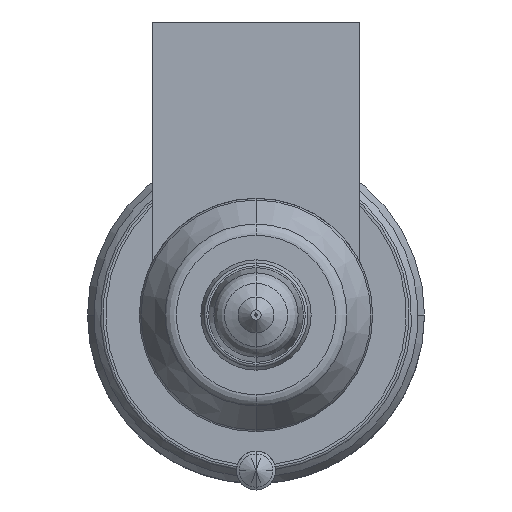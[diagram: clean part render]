
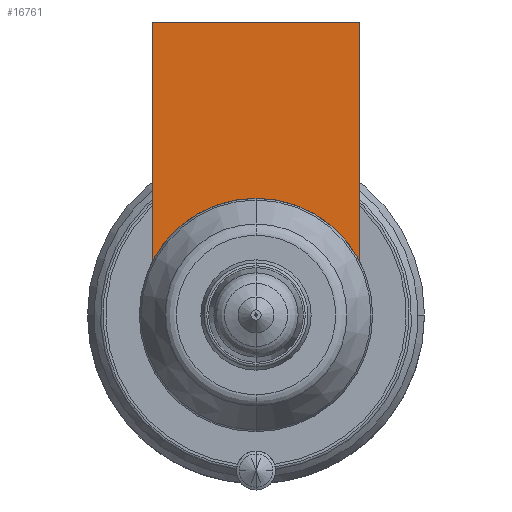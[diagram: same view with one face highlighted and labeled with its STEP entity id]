
A CAD part, front view. The second image highlights one B-rep face of the part: STEP entity #16761.
In plain terms, the highlighted planar face has unit normal (0, -1, 0).
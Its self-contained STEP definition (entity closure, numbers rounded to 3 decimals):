
#15114=DIRECTION('',(0.,0.,-1.));
#15115=VECTOR('',#15114,18.481);
#15116=CARTESIAN_POINT('',(-8.,-54.,22.604));
#15117=LINE('',#15116,#15115);
#15748=CARTESIAN_POINT('',(0.,-54.,0.));
#15749=DIRECTION('',(0.,-1.,0.));
#15750=DIRECTION('',(0.,0.,1.));
#15751=AXIS2_PLACEMENT_3D('',#15748,#15749,#15750);
#15756=DIRECTION('',(1.,0.,0.));
#15757=VECTOR('',#15756,16.);
#15758=CARTESIAN_POINT('',(-8.,-54.,22.604));
#15759=LINE('',#15758,#15757);
#15763=CARTESIAN_POINT('',(0.,-54.,0.));
#15764=DIRECTION('',(0.,-1.,0.));
#15765=DIRECTION('',(0.889,0.,0.458));
#15766=AXIS2_PLACEMENT_3D('',#15763,#15764,#15765);
#15849=DIRECTION('',(0.,0.,-1.));
#15850=VECTOR('',#15849,18.481);
#15851=CARTESIAN_POINT('',(8.,-54.,22.604));
#15852=LINE('',#15851,#15850);
#15958=CARTESIAN_POINT('',(-8.,-54.,22.604));
#15959=VERTEX_POINT('',#15958);
#15964=CARTESIAN_POINT('',(8.,-54.,22.604));
#15965=VERTEX_POINT('',#15964);
#15967=CARTESIAN_POINT('',(-8.,-54.,4.123));
#15969=VERTEX_POINT('',#15967);
#15971=CARTESIAN_POINT('',(8.,-54.,4.123));
#15973=VERTEX_POINT('',#15971);
#15974=CARTESIAN_POINT('',(0.,-54.,9.));
#15975=VERTEX_POINT('',#15974);
#16747=CARTESIAN_POINT('',(-8.,-54.,22.604));
#16748=DIRECTION('',(0.,-1.,0.));
#16749=DIRECTION('',(0.,0.,-1.));
#16750=AXIS2_PLACEMENT_3D('',#16747,#16748,#16749);
#16751=PLANE('',#16750);
#16752=ORIENTED_EDGE('',*,*,#16015,.T.);
#16753=ORIENTED_EDGE('',*,*,#15998,.F.);
#16755=ORIENTED_EDGE('',*,*,#16754,.T.);
#16757=ORIENTED_EDGE('',*,*,#16756,.T.);
#16758=ORIENTED_EDGE('',*,*,#16063,.T.);
#16759=EDGE_LOOP('',(#16752,#16753,#16755,#16757,#16758));
#16760=FACE_OUTER_BOUND('',#16759,.F.);
#16761=ADVANCED_FACE('',(#16760),#16751,.T.);
#15752=CIRCLE('',#15751,9.);
#15767=CIRCLE('',#15766,9.);
#15998=EDGE_CURVE('',#15959,#15969,#15117,.T.);
#16015=EDGE_CURVE('',#15975,#15969,#15752,.T.);
#16063=EDGE_CURVE('',#15973,#15975,#15767,.T.);
#16754=EDGE_CURVE('',#15959,#15965,#15759,.T.);
#16756=EDGE_CURVE('',#15965,#15973,#15852,.T.);
